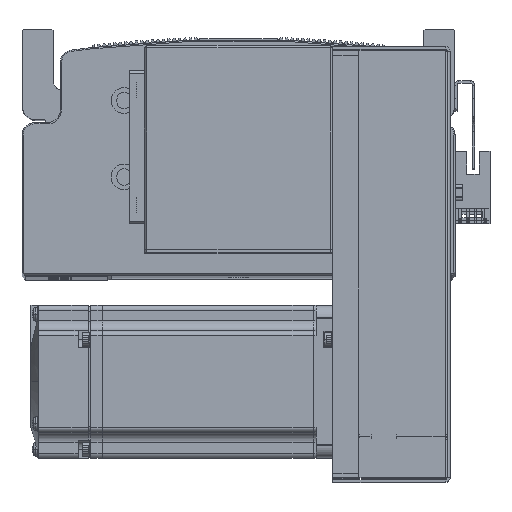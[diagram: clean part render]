
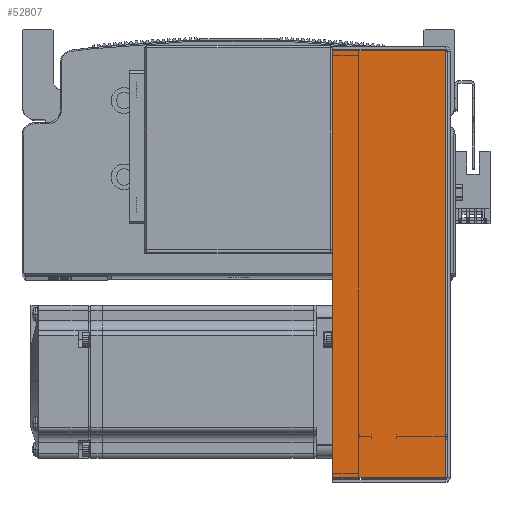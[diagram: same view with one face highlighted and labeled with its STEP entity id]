
A CAD part, top view. The second image highlights one B-rep face of the part: STEP entity #52807.
In plain terms, the highlighted planar face has unit normal (0, 0, 1) as drawn and (0, 0, -1) by its records, which use the part's own axes.
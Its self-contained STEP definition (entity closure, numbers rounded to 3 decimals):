
#4806 = AXIS2_PLACEMENT_3D ( 'NONE', #38927, #38857, #38826 ) ;
#18644 = VECTOR ( 'NONE', #39729, 1000. ) ;
#18749 = LINE ( 'NONE', #39694, #18644 ) ;
#18812 = LINE ( 'NONE', #39738, #18907 ) ;
#18907 = VECTOR ( 'NONE', #39741, 1000. ) ;
#18944 = LINE ( 'NONE', #39806, #18947 ) ;
#18947 = VECTOR ( 'NONE', #39807, 1000. ) ;
#19103 = LINE ( 'NONE', #39878, #19114 ) ;
#19114 = VECTOR ( 'NONE', #39905, 1000. ) ;
#20437 = FACE_OUTER_BOUND ( 'NONE', #65339, .T. ) ;
#37808 = CARTESIAN_POINT ( 'NONE',  ( 83.793, 0.737, -40.5 ) ) ;
#37872 = CARTESIAN_POINT ( 'NONE',  ( -83.793, 45., -40.5 ) ) ;
#37945 = CARTESIAN_POINT ( 'NONE',  ( -83.793, 0.737, -40.5 ) ) ;
#37974 = CARTESIAN_POINT ( 'NONE',  ( 83.793, 45., -40.5 ) ) ;
#38823 = PLANE ( 'NONE',  #4806 ) ;
#38826 = DIRECTION ( 'NONE',  ( 0., -1., 0. ) ) ;
#38857 = DIRECTION ( 'NONE',  ( 0., 0., 1. ) ) ;
#38927 = CARTESIAN_POINT ( 'NONE',  ( 0., 0., -40.5 ) ) ;
#39694 = CARTESIAN_POINT ( 'NONE',  ( -83.793, 0., -40.5 ) ) ;
#39729 = DIRECTION ( 'NONE',  ( 0., 1., 0. ) ) ;
#39738 = CARTESIAN_POINT ( 'NONE',  ( 83.793, 0., -40.5 ) ) ;
#39741 = DIRECTION ( 'NONE',  ( 0., 1., 0. ) ) ;
#39806 = CARTESIAN_POINT ( 'NONE',  ( 84.5, 45., -40.5 ) ) ;
#39807 = DIRECTION ( 'NONE',  ( 1., 0., 0. ) ) ;
#39878 = CARTESIAN_POINT ( 'NONE',  ( 0., 0.737, -40.5 ) ) ;
#39905 = DIRECTION ( 'NONE',  ( 1., 0., 0. ) ) ;
#52807 = ADVANCED_FACE ( 'NONE', ( #20437 ), #38823, .F. ) ;
#53505 = VERTEX_POINT ( 'NONE', #37808 ) ;
#53528 = VERTEX_POINT ( 'NONE', #37872 ) ;
#53560 = VERTEX_POINT ( 'NONE', #37945 ) ;
#53561 = VERTEX_POINT ( 'NONE', #37974 ) ;
#57220 = EDGE_CURVE ( 'NONE', #53560, #53528, #18749, .T. ) ;
#57234 = EDGE_CURVE ( 'NONE', #53505, #53561, #18812, .T. ) ;
#57257 = EDGE_CURVE ( 'NONE', #53528, #53561, #18944, .T. ) ;
#57298 = EDGE_CURVE ( 'NONE', #53560, #53505, #19103, .T. ) ;
#65339 = EDGE_LOOP ( 'NONE', ( #68743, #68750, #68739, #68791 ) ) ;
#68739 = ORIENTED_EDGE ( 'NONE', *, *, #57257, .T. ) ;
#68743 = ORIENTED_EDGE ( 'NONE', *, *, #57298, .F. ) ;
#68750 = ORIENTED_EDGE ( 'NONE', *, *, #57220, .T. ) ;
#68791 = ORIENTED_EDGE ( 'NONE', *, *, #57234, .F. ) ;
